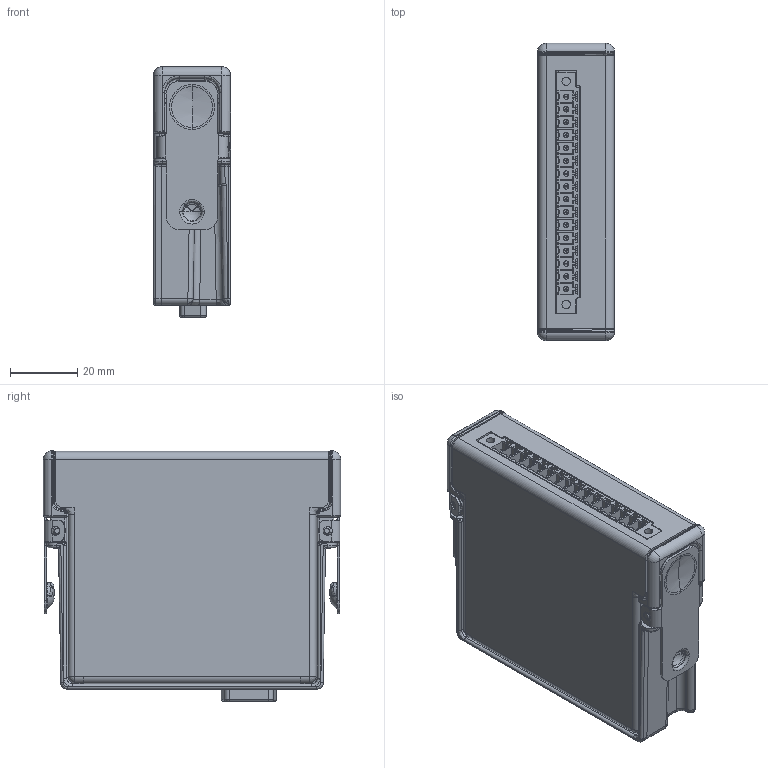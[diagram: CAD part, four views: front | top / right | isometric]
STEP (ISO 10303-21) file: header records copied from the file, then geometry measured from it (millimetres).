
FILE_DESCRIPTION((''),'2;1');
FILE_NAME('CART_CRIO_16_POS_CMBCN','2007-01-24T',('chrisj'),(''),'PRO/ENGINEER BY PARAMETRIC TECHNOLOGY CORPORATION, 2006080','PRO/ENGINEER BY PARAMETRIC TECHNOLOGY CORPORATION, 2006080','');
FILE_SCHEMA(('AUTOMOTIVE_DESIGN_CC2 { 1 2 10303 214 -1 1 5 2 }'));
Products named in the file (1): CART_CRIO_16_POS_CMBCN
Bounding box: 22.86 x 88.11 x 74.24 mm (x, y, z)
Volume: 40673.4 mm3; surface area: 49719.9 mm2
Topology: 13 solids, 13 shells, 2609 faces, 6247 edges, 3756 vertices
Faces by surface type: plane 1346, cylinder 709, bspline 365, cone 84, torus 60, sphere 39, extrusion 6
Entity records: 98448 total; most frequent: CARTESIAN_POINT 41089, ORIENTED_EDGE 12350, DIRECTION 10894, EDGE_CURVE 6175, VERTEX_POINT 3794, VECTOR 3760, LINE 3754, AXIS2_PLACEMENT_3D 3567
